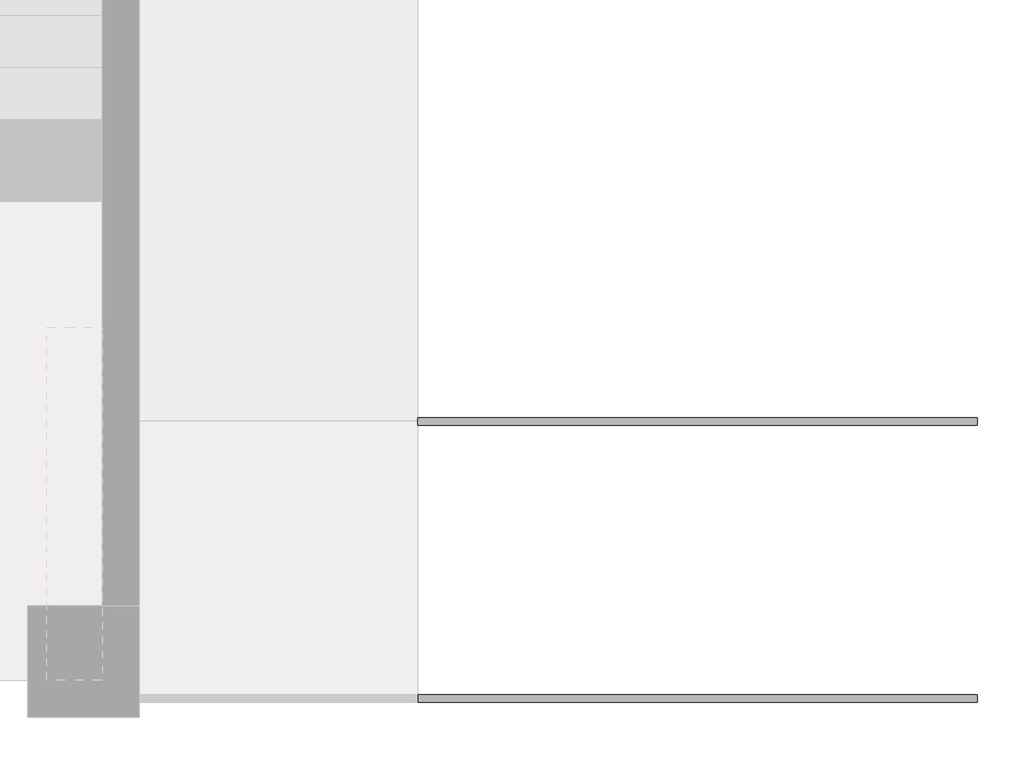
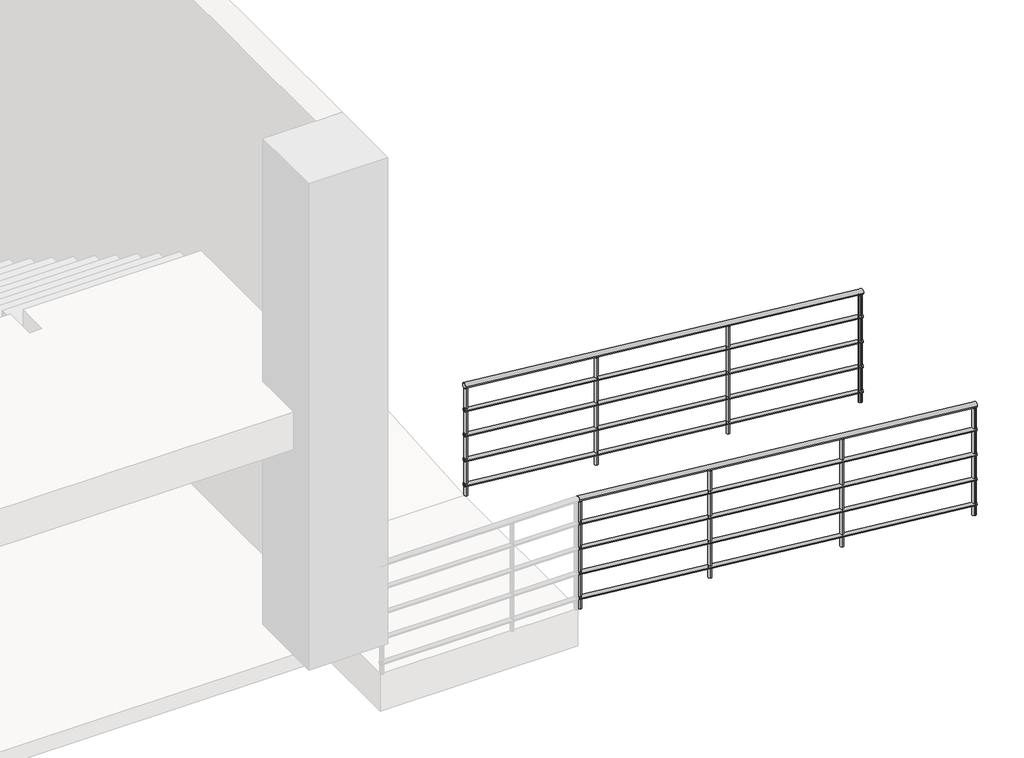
# One storey, part 5 of 5: 2 railings.
"""IFC4 building model written with IfcOpenShell, lengths in millimetres."""

from ifc_helpers import new_model, si_unit, frame, origin, place, context, project, spatial, ellipse_curve, element, save
from ifc_brep_helpers import plane_surface, cylinder_surface, advanced_brep

model = new_model("IFC4")

# Units and contexts
model_context = context("Model", 3, world=origin())
ifc_project = project(units=[si_unit("LENGTHUNIT", "METRE", prefix="MILLI")], contexts=[model_context])

# Site, building, storey
site = spatial("IfcSite", under=ifc_project)
building = spatial("IfcBuilding", under=site)
storey = spatial("IfcBuildingStorey", under=building, Name="标高 3", Elevation=3200.0)

# Railings
placement = place(None, origin())
element("IfcRailing", 1, ObjectType="900mm 圆管", at=placement, inside=storey, context=model_context, shape_type="AdvancedBrep", body=[
    advanced_brep(
    [(15418.2324742, -8962.519554, 3779.9013591), (15418.2324742, -8922.519554, 3779.9013591), (18435.1113771, -8962.519554, 3479.9013591), (18435.1113771, -8922.519554, 3479.9013591)],
    [
        (0, 1, ellipse_curve(frame((15418.2324742, -8942.519554, 3779.9013591), z_axis=(-1.0, 0.0, 0.0), x_axis=(0.0, 0.0, 0.9999999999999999)), 20.0986409, 20.0)),
        (1, 0, ellipse_curve(frame((15418.2324742, -8942.519554, 3779.9013591), z_axis=(-1.0, 0.0, 0.0), x_axis=(0.0, 0.0, 0.9999999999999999)), 20.0986409, 20.0)),
        (2, 3, ellipse_curve(frame((18435.1113771, -8942.519554, 3479.9013591), z_axis=(1.0, 0.0, 0.0), x_axis=(0.0, 0.0, 0.9999999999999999)), 20.0986409, 20.0)),
        (3, 2, ellipse_curve(frame((18435.1113771, -8942.519554, 3479.9013591), z_axis=(1.0, 0.0, 0.0), x_axis=(0.0, 0.0, 0.9999999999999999)), 20.0986409, 20.0)),
        (0, 2),
        (3, 1),
    ],
    [
        plane_surface(frame((15418.2324742, -8942.519554, 3800.0), z_axis=(-1.0, 0.0, 0.0), x_axis=(0.0, 1.0, 0.0))),
        plane_surface(frame((18435.1113771, -8942.519554, 3500.0), z_axis=(1.0, 0.0, 0.0), x_axis=(0.0, 1.0, 0.0))),
        cylinder_surface(frame((15416.2534246, -8942.519554, 3780.0981568), z_axis=(-0.9950921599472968, 0.0, 0.09895247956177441), x_axis=(0.0, 1.0, 0.0)), 20.0),
    ],
    [
        (0, [[1, 2]]),
        (1, [[3, 4]]),
        (2, [[-1, 5, -4, 6]]),
        (2, [[-2, -6, -3, -5]]),
    ],
),
    advanced_brep(
    [(15418.2324742, -8927.519554, 3584.9260193), (15418.2324742, -8957.519554, 3584.9260193), (18435.1113771, -8927.519554, 3284.9260193), (18435.1113771, -8957.519554, 3284.9260193)],
    [
        (0, 1, ellipse_curve(frame((15418.2324742, -8942.519554, 3584.9260193), z_axis=(-1.0, 0.0, 0.0), x_axis=(0.0, 0.0, 0.9999999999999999)), 15.0739807, 15.0)),
        (1, 0, ellipse_curve(frame((15418.2324742, -8942.519554, 3584.9260193), z_axis=(-1.0, 0.0, 0.0), x_axis=(0.0, 0.0, 0.9999999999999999)), 15.0739807, 15.0)),
        (2, 3, ellipse_curve(frame((18435.1113771, -8942.519554, 3284.9260193), z_axis=(1.0, 0.0, 0.0), x_axis=(0.0, 0.0, 0.9999999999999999)), 15.0739807, 15.0)),
        (3, 2, ellipse_curve(frame((18435.1113771, -8942.519554, 3284.9260193), z_axis=(1.0, 0.0, 0.0), x_axis=(0.0, 0.0, 0.9999999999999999)), 15.0739807, 15.0)),
        (0, 2),
        (3, 1),
    ],
    [
        plane_surface(frame((15418.2324742, -8942.519554, 3600.0), z_axis=(-1.0, 0.0, 0.0), x_axis=(0.0, 1.0, 0.0))),
        plane_surface(frame((18435.1113771, -8942.519554, 3300.0), z_axis=(1.0, 0.0, 0.0), x_axis=(0.0, 1.0, 0.0))),
        cylinder_surface(frame((15416.748187, -8942.519554, 3585.0736176), z_axis=(-0.9950921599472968, 0.0, 0.09895247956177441), x_axis=(0.0, -1.0, 0.0)), 15.0),
    ],
    [
        (0, [[1, 2]]),
        (1, [[3, 4]]),
        (2, [[-1, 5, -4, 6]]),
        (2, [[-2, -6, -3, -5]]),
    ],
),
    advanced_brep(
    [(15418.2324742, -8927.519554, 3384.9260193), (15418.2324742, -8957.519554, 3384.9260193), (18435.1113771, -8927.519554, 3084.9260193), (18435.1113771, -8957.519554, 3084.9260193)],
    [
        (0, 1, ellipse_curve(frame((15418.2324742, -8942.519554, 3384.9260193), z_axis=(-1.0, 0.0, 0.0), x_axis=(0.0, 0.0, 0.9999999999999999)), 15.0739807, 15.0)),
        (1, 0, ellipse_curve(frame((15418.2324742, -8942.519554, 3384.9260193), z_axis=(-1.0, 0.0, 0.0), x_axis=(0.0, 0.0, 0.9999999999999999)), 15.0739807, 15.0)),
        (2, 3, ellipse_curve(frame((18435.1113771, -8942.519554, 3084.9260193), z_axis=(1.0, 0.0, 0.0), x_axis=(0.0, 0.0, 0.9999999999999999)), 15.0739807, 15.0)),
        (3, 2, ellipse_curve(frame((18435.1113771, -8942.519554, 3084.9260193), z_axis=(1.0, 0.0, 0.0), x_axis=(0.0, 0.0, 0.9999999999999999)), 15.0739807, 15.0)),
        (0, 2),
        (3, 1),
    ],
    [
        plane_surface(frame((15418.2324742, -8942.519554, 3400.0), z_axis=(-1.0, 0.0, 0.0), x_axis=(0.0, 1.0, 0.0))),
        plane_surface(frame((18435.1113771, -8942.519554, 3100.0), z_axis=(1.0, 0.0, 0.0), x_axis=(0.0, 1.0, 0.0))),
        cylinder_surface(frame((15416.748187, -8942.519554, 3385.0736176), z_axis=(-0.9950921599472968, 0.0, 0.09895247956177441), x_axis=(0.0, -1.0, 0.0)), 15.0),
    ],
    [
        (0, [[1, 2]]),
        (1, [[3, 4]]),
        (2, [[-1, 5, -4, 6]]),
        (2, [[-2, -6, -3, -5]]),
    ],
),
    advanced_brep(
    [(15418.2324742, -8927.519554, 3184.9260193), (15418.2324742, -8957.519554, 3184.9260193), (18435.1113771, -8927.519554, 2884.9260193), (18435.1113771, -8957.519554, 2884.9260193)],
    [
        (0, 1, ellipse_curve(frame((15418.2324742, -8942.519554, 3184.9260193), z_axis=(-1.0, 0.0, 0.0), x_axis=(0.0, 0.0, 0.9999999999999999)), 15.0739807, 15.0)),
        (1, 0, ellipse_curve(frame((15418.2324742, -8942.519554, 3184.9260193), z_axis=(-1.0, 0.0, 0.0), x_axis=(0.0, 0.0, 0.9999999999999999)), 15.0739807, 15.0)),
        (2, 3, ellipse_curve(frame((18435.1113771, -8942.519554, 2884.9260193), z_axis=(1.0, 0.0, 0.0), x_axis=(0.0, 0.0, 0.9999999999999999)), 15.0739807, 15.0)),
        (3, 2, ellipse_curve(frame((18435.1113771, -8942.519554, 2884.9260193), z_axis=(1.0, 0.0, 0.0), x_axis=(0.0, 0.0, 0.9999999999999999)), 15.0739807, 15.0)),
        (0, 2),
        (3, 1),
    ],
    [
        plane_surface(frame((15418.2324742, -8942.519554, 3200.0), z_axis=(-1.0, 0.0, 0.0), x_axis=(0.0, 1.0, 0.0))),
        plane_surface(frame((18435.1113771, -8942.519554, 2900.0), z_axis=(1.0, 0.0, 0.0), x_axis=(0.0, 1.0, 0.0))),
        cylinder_surface(frame((15416.748187, -8942.519554, 3185.0736176), z_axis=(-0.9950921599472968, 0.0, 0.09895247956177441), x_axis=(0.0, -1.0, 0.0)), 15.0),
    ],
    [
        (0, [[1, 2]]),
        (1, [[3, 4]]),
        (2, [[-1, 5, -4, 6]]),
        (2, [[-2, -6, -3, -5]]),
    ],
),
    advanced_brep(
    [(15418.2324742, -8927.519554, 2984.9260193), (15418.2324742, -8957.519554, 2984.9260193), (18435.1113771, -8927.519554, 2684.9260193), (18435.1113771, -8957.519554, 2684.9260193)],
    [
        (0, 1, ellipse_curve(frame((15418.2324742, -8942.519554, 2984.9260193), z_axis=(-1.0, 0.0, 0.0), x_axis=(0.0, 0.0, 0.9999999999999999)), 15.0739807, 15.0)),
        (1, 0, ellipse_curve(frame((15418.2324742, -8942.519554, 2984.9260193), z_axis=(-1.0, 0.0, 0.0), x_axis=(0.0, 0.0, 0.9999999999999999)), 15.0739807, 15.0)),
        (2, 3, ellipse_curve(frame((18435.1113771, -8942.519554, 2684.9260193), z_axis=(1.0, 0.0, 0.0), x_axis=(0.0, 0.0, 0.9999999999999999)), 15.0739807, 15.0)),
        (3, 2, ellipse_curve(frame((18435.1113771, -8942.519554, 2684.9260193), z_axis=(1.0, 0.0, 0.0), x_axis=(0.0, 0.0, 0.9999999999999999)), 15.0739807, 15.0)),
        (0, 2),
        (3, 1),
    ],
    [
        plane_surface(frame((15418.2324742, -8942.519554, 3000.0), z_axis=(-1.0, 0.0, 0.0), x_axis=(0.0, 1.0, 0.0))),
        plane_surface(frame((18435.1113771, -8942.519554, 2700.0), z_axis=(1.0, 0.0, 0.0), x_axis=(0.0, 1.0, 0.0))),
        cylinder_surface(frame((15416.748187, -8942.519554, 2985.0736176), z_axis=(-0.9950921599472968, 0.0, 0.09895247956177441), x_axis=(0.0, -1.0, 0.0)), 15.0),
    ],
    [
        (0, [[1, 2]]),
        (1, [[3, 4]]),
        (2, [[-1, 5, -4, 6]]),
        (2, [[-2, -6, -3, -5]]),
    ],
),
    advanced_brep(
    [(18418.2324742, -8955.019554, 3461.481165), (18418.2324742, -8955.019554, 2601.6784468), (18418.2324742, -8930.019554, 2601.6784468), (18418.2324742, -8930.019554, 3461.481165)],
    [
        (0, 1),
        (1, 2, ellipse_curve(frame((18418.2324742, -8942.519554, 2601.6784468), z_axis=(0.09895247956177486, 0.0, 0.9950921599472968), x_axis=(-0.9950921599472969, 0.0, 0.09895247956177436)), 12.5616506, 12.5)),
        (2, 3),
        (3, 0, ellipse_curve(frame((18418.2324742, -8942.519554, 3461.481165), z_axis=(-0.09895247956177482, 0.0, -0.9950921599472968), x_axis=(-0.9950921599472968, 0.0, 0.0989524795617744)), 12.5616506, 12.5)),
        (0, 3, ellipse_curve(frame((18418.2324742, -8942.519554, 3461.481165), z_axis=(-0.09895247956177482, 0.0, -0.9950921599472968), x_axis=(-0.9950921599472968, 0.0, 0.0989524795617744)), 12.5616506, 12.5)),
        (2, 1, ellipse_curve(frame((18418.2324742, -8942.519554, 2601.6784468), z_axis=(0.09895247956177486, 0.0, 0.9950921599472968), x_axis=(-0.9950921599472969, 0.0, 0.09895247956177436)), 12.5616506, 12.5)),
    ],
    [
        cylinder_surface(frame((18418.2324742, -8942.519554, 2501.6784468), z_axis=(0.0, 0.0, 1.0), x_axis=(0.0, 1.0, 0.0)), 12.5),
        plane_surface(frame((18443.2324742, -8917.519554, 3458.9951521), z_axis=(0.09895247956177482, 0.0, 0.9950921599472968), x_axis=(0.0, -1.0, 0.0))),
        plane_surface(frame((18393.2324742, -8917.519554, 2604.1644598), z_axis=(-0.09895247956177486, 0.0, -0.9950921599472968), x_axis=(0.0, -1.0, 0.0))),
    ],
    [
        (0, [[1, 2, 3, 4]]),
        (0, [[-1, 5, -3, 6]]),
        (1, [[-4, -5]]),
        (2, [[-2, -6]]),
    ],
),
    advanced_brep(
    [(17418.2324742, -8955.019554, 3560.9216827), (17418.2324742, -8955.019554, 2701.1189646), (17418.2324742, -8930.019554, 2701.1189646), (17418.2324742, -8930.019554, 3560.9216827)],
    [
        (0, 1),
        (1, 2, ellipse_curve(frame((17418.2324742, -8942.519554, 2701.1189646), z_axis=(0.09895247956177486, 0.0, 0.9950921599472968), x_axis=(-0.9950921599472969, 0.0, 0.09895247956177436)), 12.5616506, 12.5)),
        (2, 3),
        (3, 0, ellipse_curve(frame((17418.2324742, -8942.519554, 3560.9216827), z_axis=(-0.09895247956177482, 0.0, -0.9950921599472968), x_axis=(-0.9950921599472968, 0.0, 0.0989524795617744)), 12.5616506, 12.5)),
        (0, 3, ellipse_curve(frame((17418.2324742, -8942.519554, 3560.9216827), z_axis=(-0.09895247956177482, 0.0, -0.9950921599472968), x_axis=(-0.9950921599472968, 0.0, 0.0989524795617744)), 12.5616506, 12.5)),
        (2, 1, ellipse_curve(frame((17418.2324742, -8942.519554, 2701.1189646), z_axis=(0.09895247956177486, 0.0, 0.9950921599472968), x_axis=(-0.9950921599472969, 0.0, 0.09895247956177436)), 12.5616506, 12.5)),
    ],
    [
        cylinder_surface(frame((17418.2324742, -8942.519554, 2601.1189646), z_axis=(0.0, 0.0, 1.0), x_axis=(0.0, 1.0, 0.0)), 12.5),
        plane_surface(frame((17443.2324742, -8917.519554, 3558.4356698), z_axis=(0.09895247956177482, 0.0, 0.9950921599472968), x_axis=(0.0, -1.0, 0.0))),
        plane_surface(frame((17393.2324742, -8917.519554, 2703.6049775), z_axis=(-0.09895247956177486, 0.0, -0.9950921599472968), x_axis=(0.0, -1.0, 0.0))),
    ],
    [
        (0, [[1, 2, 3, 4]]),
        (0, [[-1, 5, -3, 6]]),
        (1, [[-4, -5]]),
        (2, [[-2, -6]]),
    ],
),
    advanced_brep(
    [(16418.2324742, -8955.019554, 3660.3622005), (16418.2324742, -8955.019554, 2800.5594823), (16418.2324742, -8930.019554, 2800.5594823), (16418.2324742, -8930.019554, 3660.3622005)],
    [
        (0, 1),
        (1, 2, ellipse_curve(frame((16418.2324742, -8942.519554, 2800.5594823), z_axis=(0.09895247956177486, 0.0, 0.9950921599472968), x_axis=(-0.9950921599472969, 0.0, 0.09895247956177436)), 12.5616506, 12.5)),
        (2, 3),
        (3, 0, ellipse_curve(frame((16418.2324742, -8942.519554, 3660.3622005), z_axis=(-0.09895247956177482, 0.0, -0.9950921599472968), x_axis=(-0.9950921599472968, 0.0, 0.0989524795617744)), 12.5616506, 12.5)),
        (0, 3, ellipse_curve(frame((16418.2324742, -8942.519554, 3660.3622005), z_axis=(-0.09895247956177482, 0.0, -0.9950921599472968), x_axis=(-0.9950921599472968, 0.0, 0.0989524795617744)), 12.5616506, 12.5)),
        (2, 1, ellipse_curve(frame((16418.2324742, -8942.519554, 2800.5594823), z_axis=(0.09895247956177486, 0.0, 0.9950921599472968), x_axis=(-0.9950921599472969, 0.0, 0.09895247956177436)), 12.5616506, 12.5)),
    ],
    [
        cylinder_surface(frame((16418.2324742, -8942.519554, 2700.5594823), z_axis=(0.0, 0.0, 1.0), x_axis=(0.0, 1.0, 0.0)), 12.5),
        plane_surface(frame((16443.2324742, -8917.519554, 3657.8761875), z_axis=(0.09895247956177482, 0.0, 0.9950921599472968), x_axis=(0.0, -1.0, 0.0))),
        plane_surface(frame((16393.2324742, -8917.519554, 2803.0454952), z_axis=(-0.09895247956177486, 0.0, -0.9950921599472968), x_axis=(0.0, -1.0, 0.0))),
    ],
    [
        (0, [[1, 2, 3, 4]]),
        (0, [[-1, 5, -3, 6]]),
        (1, [[-4, -5]]),
        (2, [[-2, -6]]),
    ],
),
    advanced_brep(
    [(18422.6113771, -8955.019554, 3461.0457246), (18422.6113771, -8955.019554, 2601.2430065), (18422.6113771, -8930.019554, 2601.2430065), (18422.6113771, -8930.019554, 3461.0457246)],
    [
        (0, 1),
        (1, 2, ellipse_curve(frame((18422.6113771, -8942.519554, 2601.2430065), z_axis=(0.09895247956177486, 0.0, 0.9950921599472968), x_axis=(-0.9950921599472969, 0.0, 0.09895247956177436)), 12.5616506, 12.5)),
        (2, 3),
        (3, 0, ellipse_curve(frame((18422.6113771, -8942.519554, 3461.0457246), z_axis=(-0.09895247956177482, 0.0, -0.9950921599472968), x_axis=(-0.9950921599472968, 0.0, 0.0989524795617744)), 12.5616506, 12.5)),
        (0, 3, ellipse_curve(frame((18422.6113771, -8942.519554, 3461.0457246), z_axis=(-0.09895247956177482, 0.0, -0.9950921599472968), x_axis=(-0.9950921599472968, 0.0, 0.0989524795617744)), 12.5616506, 12.5)),
        (2, 1, ellipse_curve(frame((18422.6113771, -8942.519554, 2601.2430065), z_axis=(0.09895247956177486, 0.0, 0.9950921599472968), x_axis=(-0.9950921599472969, 0.0, 0.09895247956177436)), 12.5616506, 12.5)),
    ],
    [
        cylinder_surface(frame((18422.6113771, -8942.519554, 2501.2430065), z_axis=(0.0, 0.0, 1.0), x_axis=(0.0, 1.0, 0.0)), 12.5),
        plane_surface(frame((18447.6113771, -8917.519554, 3458.5597117), z_axis=(0.09895247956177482, 0.0, 0.9950921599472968), x_axis=(0.0, -1.0, 0.0))),
        plane_surface(frame((18397.6113771, -8917.519554, 2603.7290194), z_axis=(-0.09895247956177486, 0.0, -0.9950921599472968), x_axis=(0.0, -1.0, 0.0))),
    ],
    [
        (0, [[1, 2, 3, 4]]),
        (0, [[-1, 5, -3, 6]]),
        (1, [[-4, -5]]),
        (2, [[-2, -6]]),
    ],
),
    advanced_brep(
    [(15430.7324742, -8955.019554, 3758.5597117), (15430.7324742, -8955.019554, 2898.7569935), (15430.7324742, -8930.019554, 2898.7569935), (15430.7324742, -8930.019554, 3758.5597117)],
    [
        (0, 1),
        (1, 2, ellipse_curve(frame((15430.7324742, -8942.519554, 2898.7569935), z_axis=(0.09895247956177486, 0.0, 0.9950921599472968), x_axis=(-0.9950921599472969, 0.0, 0.09895247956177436)), 12.5616506, 12.5)),
        (2, 3),
        (3, 0, ellipse_curve(frame((15430.7324742, -8942.519554, 3758.5597117), z_axis=(-0.09895247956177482, 0.0, -0.9950921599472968), x_axis=(-0.9950921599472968, 0.0, 0.0989524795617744)), 12.5616506, 12.5)),
        (0, 3, ellipse_curve(frame((15430.7324742, -8942.519554, 3758.5597117), z_axis=(-0.09895247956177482, 0.0, -0.9950921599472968), x_axis=(-0.9950921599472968, 0.0, 0.0989524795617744)), 12.5616506, 12.5)),
        (2, 1, ellipse_curve(frame((15430.7324742, -8942.519554, 2898.7569935), z_axis=(0.09895247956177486, 0.0, 0.9950921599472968), x_axis=(-0.9950921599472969, 0.0, 0.09895247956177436)), 12.5616506, 12.5)),
    ],
    [
        cylinder_surface(frame((15430.7324742, -8942.519554, 2798.7569935), z_axis=(0.0, 0.0, 1.0), x_axis=(0.0, 1.0, 0.0)), 12.5),
        plane_surface(frame((15455.7324742, -8917.519554, 3756.0736988), z_axis=(0.09895247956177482, 0.0, 0.9950921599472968), x_axis=(0.0, -1.0, 0.0))),
        plane_surface(frame((15405.7324742, -8917.519554, 2901.2430065), z_axis=(-0.09895247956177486, 0.0, -0.9950921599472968), x_axis=(0.0, -1.0, 0.0))),
    ],
    [
        (0, [[1, 2, 3, 4]]),
        (0, [[-1, 5, -3, 6]]),
        (1, [[-4, -5]]),
        (2, [[-2, -6]]),
    ],
),
])
element("IfcRailing", 2, ObjectType="900mm 圆管", at=placement, inside=storey, context=model_context, shape_type="AdvancedBrep", body=[
    advanced_brep(
    [(15418.2324742, -10456.6725016, 3779.9013591), (15418.2324742, -10416.6725016, 3779.9013591), (18435.1113771, -10456.6725016, 3479.9013591), (18435.1113771, -10416.6725016, 3479.9013591)],
    [
        (0, 1, ellipse_curve(frame((15418.2324742, -10436.6725016, 3779.9013591), z_axis=(-1.0, 0.0, 0.0), x_axis=(0.0, 0.0, 0.9999999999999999)), 20.0986409, 20.0)),
        (1, 0, ellipse_curve(frame((15418.2324742, -10436.6725016, 3779.9013591), z_axis=(-1.0, 0.0, 0.0), x_axis=(0.0, 0.0, 0.9999999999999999)), 20.0986409, 20.0)),
        (2, 3, ellipse_curve(frame((18435.1113771, -10436.6725016, 3479.9013591), z_axis=(1.0, 0.0, 0.0), x_axis=(0.0, 0.0, 0.9999999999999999)), 20.0986409, 20.0)),
        (3, 2, ellipse_curve(frame((18435.1113771, -10436.6725016, 3479.9013591), z_axis=(1.0, 0.0, 0.0), x_axis=(0.0, 0.0, 0.9999999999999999)), 20.0986409, 20.0)),
        (0, 2),
        (3, 1),
    ],
    [
        plane_surface(frame((15418.2324742, -10436.6725016, 3800.0), z_axis=(-1.0, 0.0, 0.0), x_axis=(0.0, 1.0, 0.0))),
        plane_surface(frame((18435.1113771, -10436.6725016, 3500.0), z_axis=(1.0, 0.0, 0.0), x_axis=(0.0, 1.0, 0.0))),
        cylinder_surface(frame((15416.2534246, -10436.6725016, 3780.0981568), z_axis=(-0.9950921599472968, 0.0, 0.09895247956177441), x_axis=(0.0, 1.0, 0.0)), 20.0),
    ],
    [
        (0, [[1, 2]]),
        (1, [[3, 4]]),
        (2, [[-1, 5, -4, 6]]),
        (2, [[-2, -6, -3, -5]]),
    ],
),
    advanced_brep(
    [(15418.2324742, -10451.6725016, 3584.9260193), (15418.2324742, -10421.6725016, 3584.9260193), (18435.1113771, -10451.6725016, 3284.9260193), (18435.1113771, -10421.6725016, 3284.9260193)],
    [
        (0, 1, ellipse_curve(frame((15418.2324742, -10436.6725016, 3584.9260193), z_axis=(-1.0, 0.0, 0.0), x_axis=(0.0, 0.0, 0.9999999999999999)), 15.0739807, 15.0)),
        (1, 0, ellipse_curve(frame((15418.2324742, -10436.6725016, 3584.9260193), z_axis=(-1.0, 0.0, 0.0), x_axis=(0.0, 0.0, 0.9999999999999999)), 15.0739807, 15.0)),
        (2, 3, ellipse_curve(frame((18435.1113771, -10436.6725016, 3284.9260193), z_axis=(1.0, 0.0, 0.0), x_axis=(0.0, 0.0, 0.9999999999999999)), 15.0739807, 15.0)),
        (3, 2, ellipse_curve(frame((18435.1113771, -10436.6725016, 3284.9260193), z_axis=(1.0, 0.0, 0.0), x_axis=(0.0, 0.0, 0.9999999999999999)), 15.0739807, 15.0)),
        (1, 3),
        (2, 0),
    ],
    [
        plane_surface(frame((15418.2324742, -10436.6725016, 3600.0), z_axis=(-1.0, 0.0, 0.0), x_axis=(0.0, 1.0, 0.0))),
        plane_surface(frame((18435.1113771, -10436.6725016, 3300.0), z_axis=(1.0, 0.0, 0.0), x_axis=(0.0, 1.0, 0.0))),
        cylinder_surface(frame((15416.748187, -10436.6725016, 3585.0736176), z_axis=(-0.9950921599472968, 0.0, 0.09895247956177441), x_axis=(0.0, 1.0, 0.0)), 15.0),
    ],
    [
        (0, [[1, 2]]),
        (1, [[3, 4]]),
        (2, [[-2, 5, -3, 6]]),
        (2, [[-1, -6, -4, -5]]),
    ],
),
    advanced_brep(
    [(15418.2324742, -10451.6725016, 3384.9260193), (15418.2324742, -10421.6725016, 3384.9260193), (18435.1113771, -10451.6725016, 3084.9260193), (18435.1113771, -10421.6725016, 3084.9260193)],
    [
        (0, 1, ellipse_curve(frame((15418.2324742, -10436.6725016, 3384.9260193), z_axis=(-1.0, 0.0, 0.0), x_axis=(0.0, 0.0, 0.9999999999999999)), 15.0739807, 15.0)),
        (1, 0, ellipse_curve(frame((15418.2324742, -10436.6725016, 3384.9260193), z_axis=(-1.0, 0.0, 0.0), x_axis=(0.0, 0.0, 0.9999999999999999)), 15.0739807, 15.0)),
        (2, 3, ellipse_curve(frame((18435.1113771, -10436.6725016, 3084.9260193), z_axis=(1.0, 0.0, 0.0), x_axis=(0.0, 0.0, 0.9999999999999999)), 15.0739807, 15.0)),
        (3, 2, ellipse_curve(frame((18435.1113771, -10436.6725016, 3084.9260193), z_axis=(1.0, 0.0, 0.0), x_axis=(0.0, 0.0, 0.9999999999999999)), 15.0739807, 15.0)),
        (1, 3),
        (2, 0),
    ],
    [
        plane_surface(frame((15418.2324742, -10436.6725016, 3400.0), z_axis=(-1.0, 0.0, 0.0), x_axis=(0.0, 1.0, 0.0))),
        plane_surface(frame((18435.1113771, -10436.6725016, 3100.0), z_axis=(1.0, 0.0, 0.0), x_axis=(0.0, 1.0, 0.0))),
        cylinder_surface(frame((15416.748187, -10436.6725016, 3385.0736176), z_axis=(-0.9950921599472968, 0.0, 0.09895247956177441), x_axis=(0.0, 1.0, 0.0)), 15.0),
    ],
    [
        (0, [[1, 2]]),
        (1, [[3, 4]]),
        (2, [[-2, 5, -3, 6]]),
        (2, [[-1, -6, -4, -5]]),
    ],
),
    advanced_brep(
    [(15418.2324742, -10451.6725016, 3184.9260193), (15418.2324742, -10421.6725016, 3184.9260193), (18435.1113771, -10451.6725016, 2884.9260193), (18435.1113771, -10421.6725016, 2884.9260193)],
    [
        (0, 1, ellipse_curve(frame((15418.2324742, -10436.6725016, 3184.9260193), z_axis=(-1.0, 0.0, 0.0), x_axis=(0.0, 0.0, 0.9999999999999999)), 15.0739807, 15.0)),
        (1, 0, ellipse_curve(frame((15418.2324742, -10436.6725016, 3184.9260193), z_axis=(-1.0, 0.0, 0.0), x_axis=(0.0, 0.0, 0.9999999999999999)), 15.0739807, 15.0)),
        (2, 3, ellipse_curve(frame((18435.1113771, -10436.6725016, 2884.9260193), z_axis=(1.0, 0.0, 0.0), x_axis=(0.0, 0.0, 0.9999999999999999)), 15.0739807, 15.0)),
        (3, 2, ellipse_curve(frame((18435.1113771, -10436.6725016, 2884.9260193), z_axis=(1.0, 0.0, 0.0), x_axis=(0.0, 0.0, 0.9999999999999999)), 15.0739807, 15.0)),
        (1, 3),
        (2, 0),
    ],
    [
        plane_surface(frame((15418.2324742, -10436.6725016, 3200.0), z_axis=(-1.0, 0.0, 0.0), x_axis=(0.0, 1.0, 0.0))),
        plane_surface(frame((18435.1113771, -10436.6725016, 2900.0), z_axis=(1.0, 0.0, 0.0), x_axis=(0.0, 1.0, 0.0))),
        cylinder_surface(frame((15416.748187, -10436.6725016, 3185.0736176), z_axis=(-0.9950921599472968, 0.0, 0.09895247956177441), x_axis=(0.0, 1.0, 0.0)), 15.0),
    ],
    [
        (0, [[1, 2]]),
        (1, [[3, 4]]),
        (2, [[-2, 5, -3, 6]]),
        (2, [[-1, -6, -4, -5]]),
    ],
),
    advanced_brep(
    [(15418.2324742, -10451.6725016, 2984.9260193), (15418.2324742, -10421.6725016, 2984.9260193), (18435.1113771, -10451.6725016, 2684.9260193), (18435.1113771, -10421.6725016, 2684.9260193)],
    [
        (0, 1, ellipse_curve(frame((15418.2324742, -10436.6725016, 2984.9260193), z_axis=(-1.0, 0.0, 0.0), x_axis=(0.0, 0.0, 0.9999999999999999)), 15.0739807, 15.0)),
        (1, 0, ellipse_curve(frame((15418.2324742, -10436.6725016, 2984.9260193), z_axis=(-1.0, 0.0, 0.0), x_axis=(0.0, 0.0, 0.9999999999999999)), 15.0739807, 15.0)),
        (2, 3, ellipse_curve(frame((18435.1113771, -10436.6725016, 2684.9260193), z_axis=(1.0, 0.0, 0.0), x_axis=(0.0, 0.0, 0.9999999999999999)), 15.0739807, 15.0)),
        (3, 2, ellipse_curve(frame((18435.1113771, -10436.6725016, 2684.9260193), z_axis=(1.0, 0.0, 0.0), x_axis=(0.0, 0.0, 0.9999999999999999)), 15.0739807, 15.0)),
        (1, 3),
        (2, 0),
    ],
    [
        plane_surface(frame((15418.2324742, -10436.6725016, 3000.0), z_axis=(-1.0, 0.0, 0.0), x_axis=(0.0, 1.0, 0.0))),
        plane_surface(frame((18435.1113771, -10436.6725016, 2700.0), z_axis=(1.0, 0.0, 0.0), x_axis=(0.0, 1.0, 0.0))),
        cylinder_surface(frame((15416.748187, -10436.6725016, 2985.0736176), z_axis=(-0.9950921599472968, 0.0, 0.09895247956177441), x_axis=(0.0, 1.0, 0.0)), 15.0),
    ],
    [
        (0, [[1, 2]]),
        (1, [[3, 4]]),
        (2, [[-2, 5, -3, 6]]),
        (2, [[-1, -6, -4, -5]]),
    ],
),
    advanced_brep(
    [(18418.2324742, -10424.1725016, 3461.481165), (18418.2324742, -10449.1725016, 3461.481165), (18418.2324742, -10449.1725016, 2601.6784468), (18418.2324742, -10424.1725016, 2601.6784468)],
    [
        (0, 1, ellipse_curve(frame((18418.2324742, -10436.6725016, 3461.481165), z_axis=(-0.09895247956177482, 0.0, -0.9950921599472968), x_axis=(-0.9950921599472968, 0.0, 0.0989524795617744)), 12.5616506, 12.5)),
        (1, 2),
        (2, 3, ellipse_curve(frame((18418.2324742, -10436.6725016, 2601.6784468), z_axis=(0.09895247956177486, 0.0, 0.9950921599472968), x_axis=(-0.9950921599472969, 0.0, 0.09895247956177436)), 12.5616506, 12.5)),
        (3, 0),
        (3, 2, ellipse_curve(frame((18418.2324742, -10436.6725016, 2601.6784468), z_axis=(0.09895247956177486, 0.0, 0.9950921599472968), x_axis=(-0.9950921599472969, 0.0, 0.09895247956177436)), 12.5616506, 12.5)),
        (1, 0, ellipse_curve(frame((18418.2324742, -10436.6725016, 3461.481165), z_axis=(-0.09895247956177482, 0.0, -0.9950921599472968), x_axis=(-0.9950921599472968, 0.0, 0.0989524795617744)), 12.5616506, 12.5)),
    ],
    [
        cylinder_surface(frame((18418.2324742, -10436.6725016, 2501.6784468), z_axis=(0.0, 0.0, 1.0), x_axis=(0.0, -1.0, 0.0)), 12.5),
        plane_surface(frame((18443.2324742, -10461.6725016, 3458.9951521), z_axis=(0.09895247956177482, 0.0, 0.9950921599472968), x_axis=(0.0, 1.0, 0.0))),
        plane_surface(frame((18393.2324742, -10461.6725016, 2604.1644598), z_axis=(-0.09895247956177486, 0.0, -0.9950921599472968), x_axis=(0.0, 1.0, 0.0))),
    ],
    [
        (0, [[1, 2, 3, 4]]),
        (0, [[5, -2, 6, -4]]),
        (1, [[-6, -1]]),
        (2, [[-5, -3]]),
    ],
),
    advanced_brep(
    [(17418.2324742, -10424.1725016, 3560.9216827), (17418.2324742, -10449.1725016, 3560.9216827), (17418.2324742, -10449.1725016, 2701.1189646), (17418.2324742, -10424.1725016, 2701.1189646)],
    [
        (0, 1, ellipse_curve(frame((17418.2324742, -10436.6725016, 3560.9216827), z_axis=(-0.09895247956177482, 0.0, -0.9950921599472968), x_axis=(-0.9950921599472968, 0.0, 0.0989524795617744)), 12.5616506, 12.5)),
        (1, 2),
        (2, 3, ellipse_curve(frame((17418.2324742, -10436.6725016, 2701.1189646), z_axis=(0.09895247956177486, 0.0, 0.9950921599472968), x_axis=(-0.9950921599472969, 0.0, 0.09895247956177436)), 12.5616506, 12.5)),
        (3, 0),
        (3, 2, ellipse_curve(frame((17418.2324742, -10436.6725016, 2701.1189646), z_axis=(0.09895247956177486, 0.0, 0.9950921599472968), x_axis=(-0.9950921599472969, 0.0, 0.09895247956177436)), 12.5616506, 12.5)),
        (1, 0, ellipse_curve(frame((17418.2324742, -10436.6725016, 3560.9216827), z_axis=(-0.09895247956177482, 0.0, -0.9950921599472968), x_axis=(-0.9950921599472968, 0.0, 0.0989524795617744)), 12.5616506, 12.5)),
    ],
    [
        cylinder_surface(frame((17418.2324742, -10436.6725016, 2601.1189646), z_axis=(0.0, 0.0, 1.0), x_axis=(0.0, -1.0, 0.0)), 12.5),
        plane_surface(frame((17443.2324742, -10461.6725016, 3558.4356698), z_axis=(0.09895247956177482, 0.0, 0.9950921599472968), x_axis=(0.0, 1.0, 0.0))),
        plane_surface(frame((17393.2324742, -10461.6725016, 2703.6049775), z_axis=(-0.09895247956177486, 0.0, -0.9950921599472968), x_axis=(0.0, 1.0, 0.0))),
    ],
    [
        (0, [[1, 2, 3, 4]]),
        (0, [[5, -2, 6, -4]]),
        (1, [[-6, -1]]),
        (2, [[-5, -3]]),
    ],
),
    advanced_brep(
    [(16418.2324742, -10424.1725016, 3660.3622005), (16418.2324742, -10449.1725016, 3660.3622005), (16418.2324742, -10449.1725016, 2800.5594823), (16418.2324742, -10424.1725016, 2800.5594823)],
    [
        (0, 1, ellipse_curve(frame((16418.2324742, -10436.6725016, 3660.3622005), z_axis=(-0.09895247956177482, 0.0, -0.9950921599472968), x_axis=(-0.9950921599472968, 0.0, 0.0989524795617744)), 12.5616506, 12.5)),
        (1, 2),
        (2, 3, ellipse_curve(frame((16418.2324742, -10436.6725016, 2800.5594823), z_axis=(0.09895247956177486, 0.0, 0.9950921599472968), x_axis=(-0.9950921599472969, 0.0, 0.09895247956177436)), 12.5616506, 12.5)),
        (3, 0),
        (3, 2, ellipse_curve(frame((16418.2324742, -10436.6725016, 2800.5594823), z_axis=(0.09895247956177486, 0.0, 0.9950921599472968), x_axis=(-0.9950921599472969, 0.0, 0.09895247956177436)), 12.5616506, 12.5)),
        (1, 0, ellipse_curve(frame((16418.2324742, -10436.6725016, 3660.3622005), z_axis=(-0.09895247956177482, 0.0, -0.9950921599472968), x_axis=(-0.9950921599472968, 0.0, 0.0989524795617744)), 12.5616506, 12.5)),
    ],
    [
        cylinder_surface(frame((16418.2324742, -10436.6725016, 2700.5594823), z_axis=(0.0, 0.0, 1.0), x_axis=(0.0, -1.0, 0.0)), 12.5),
        plane_surface(frame((16443.2324742, -10461.6725016, 3657.8761875), z_axis=(0.09895247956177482, 0.0, 0.9950921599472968), x_axis=(0.0, 1.0, 0.0))),
        plane_surface(frame((16393.2324742, -10461.6725016, 2803.0454952), z_axis=(-0.09895247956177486, 0.0, -0.9950921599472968), x_axis=(0.0, 1.0, 0.0))),
    ],
    [
        (0, [[1, 2, 3, 4]]),
        (0, [[5, -2, 6, -4]]),
        (1, [[-6, -1]]),
        (2, [[-5, -3]]),
    ],
),
    advanced_brep(
    [(18422.6113771, -10424.1725016, 3461.0457246), (18422.6113771, -10449.1725016, 3461.0457246), (18422.6113771, -10449.1725016, 2601.2430065), (18422.6113771, -10424.1725016, 2601.2430065)],
    [
        (0, 1, ellipse_curve(frame((18422.6113771, -10436.6725016, 3461.0457246), z_axis=(-0.09895247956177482, 0.0, -0.9950921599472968), x_axis=(-0.9950921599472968, 0.0, 0.0989524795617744)), 12.5616506, 12.5)),
        (1, 2),
        (2, 3, ellipse_curve(frame((18422.6113771, -10436.6725016, 2601.2430065), z_axis=(0.09895247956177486, 0.0, 0.9950921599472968), x_axis=(-0.9950921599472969, 0.0, 0.09895247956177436)), 12.5616506, 12.5)),
        (3, 0),
        (3, 2, ellipse_curve(frame((18422.6113771, -10436.6725016, 2601.2430065), z_axis=(0.09895247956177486, 0.0, 0.9950921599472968), x_axis=(-0.9950921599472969, 0.0, 0.09895247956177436)), 12.5616506, 12.5)),
        (1, 0, ellipse_curve(frame((18422.6113771, -10436.6725016, 3461.0457246), z_axis=(-0.09895247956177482, 0.0, -0.9950921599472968), x_axis=(-0.9950921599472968, 0.0, 0.0989524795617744)), 12.5616506, 12.5)),
    ],
    [
        cylinder_surface(frame((18422.6113771, -10436.6725016, 2501.2430065), z_axis=(0.0, 0.0, 1.0), x_axis=(0.0, -1.0, 0.0)), 12.5),
        plane_surface(frame((18447.6113771, -10461.6725016, 3458.5597117), z_axis=(0.09895247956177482, 0.0, 0.9950921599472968), x_axis=(0.0, 1.0, 0.0))),
        plane_surface(frame((18397.6113771, -10461.6725016, 2603.7290194), z_axis=(-0.09895247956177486, 0.0, -0.9950921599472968), x_axis=(0.0, 1.0, 0.0))),
    ],
    [
        (0, [[1, 2, 3, 4]]),
        (0, [[5, -2, 6, -4]]),
        (1, [[-6, -1]]),
        (2, [[-5, -3]]),
    ],
),
    advanced_brep(
    [(15430.7324742, -10424.1725016, 3758.5597117), (15430.7324742, -10449.1725016, 3758.5597117), (15430.7324742, -10449.1725016, 2898.7569935), (15430.7324742, -10424.1725016, 2898.7569935)],
    [
        (0, 1, ellipse_curve(frame((15430.7324742, -10436.6725016, 3758.5597117), z_axis=(-0.09895247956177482, 0.0, -0.9950921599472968), x_axis=(-0.9950921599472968, 0.0, 0.0989524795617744)), 12.5616506, 12.5)),
        (1, 2),
        (2, 3, ellipse_curve(frame((15430.7324742, -10436.6725016, 2898.7569935), z_axis=(0.09895247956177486, 0.0, 0.9950921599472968), x_axis=(-0.9950921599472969, 0.0, 0.09895247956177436)), 12.5616506, 12.5)),
        (3, 0),
        (3, 2, ellipse_curve(frame((15430.7324742, -10436.6725016, 2898.7569935), z_axis=(0.09895247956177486, 0.0, 0.9950921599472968), x_axis=(-0.9950921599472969, 0.0, 0.09895247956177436)), 12.5616506, 12.5)),
        (1, 0, ellipse_curve(frame((15430.7324742, -10436.6725016, 3758.5597117), z_axis=(-0.09895247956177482, 0.0, -0.9950921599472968), x_axis=(-0.9950921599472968, 0.0, 0.0989524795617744)), 12.5616506, 12.5)),
    ],
    [
        cylinder_surface(frame((15430.7324742, -10436.6725016, 2798.7569935), z_axis=(0.0, 0.0, 1.0), x_axis=(0.0, -1.0, 0.0)), 12.5),
        plane_surface(frame((15455.7324742, -10461.6725016, 3756.0736988), z_axis=(0.09895247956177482, 0.0, 0.9950921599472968), x_axis=(0.0, 1.0, 0.0))),
        plane_surface(frame((15405.7324742, -10461.6725016, 2901.2430065), z_axis=(-0.09895247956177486, 0.0, -0.9950921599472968), x_axis=(0.0, 1.0, 0.0))),
    ],
    [
        (0, [[1, 2, 3, 4]]),
        (0, [[5, -2, 6, -4]]),
        (1, [[-6, -1]]),
        (2, [[-5, -3]]),
    ],
),
])

save(model, "model.ifc")
